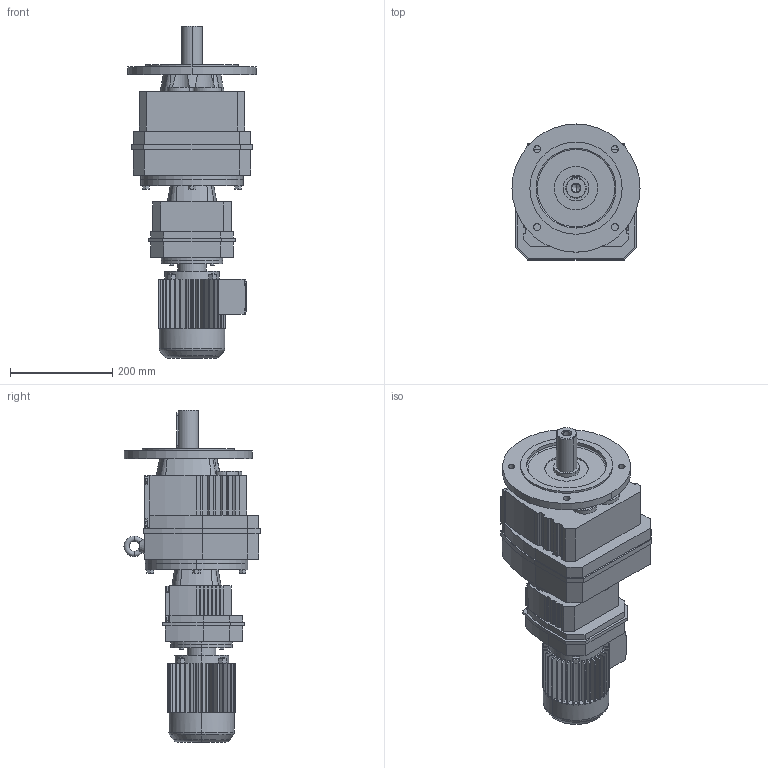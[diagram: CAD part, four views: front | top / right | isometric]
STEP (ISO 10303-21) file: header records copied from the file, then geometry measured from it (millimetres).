
FILE_DESCRIPTION(('Open CASCADE Model'),'2;1');
FILE_NAME('Open CASCADE Shape Model','2021-07-24T14:58:00',('Author'),( 'Open CASCADE'),'Open CASCADE STEP processor 6.3','Open CASCADE 6.3' ,'Unknown');
FILE_SCHEMA(('AUTOMOTIVE_DESIGN_CC2 { 1 2 10303 214 -1 1 5 4 }'));
Length unit declared in the file: millimetre
Products named in the file (4): 1_RF77R37DR63-250; RF37‵167_RF77R37_250.step; 萇儂_120-DR63-191-246-132-105.step; R_77_37.step
Assembly tree (3 placements, depth 2):
  1_RF77R37DR63-250
    RF37‵167_RF77R37_250.step
    萇儂_120-DR63-191-246-132-105.step
    R_77_37.step
Bounding box: 250 x 265.5 x 648 mm (x, y, z)
Volume: 13898061.8 mm3; surface area: 757126.3 mm2
Topology: 3 solids, 3 shells, 964 faces, 2559 edges, 1666 vertices
Faces by surface type: plane 702, cylinder 222, cone 28, torus 12
Entity records: 66744 total; most frequent: CARTESIAN_POINT 17362, DIRECTION 8697, ORIENTED_EDGE 5114, LINE 5114, VECTOR 5114, PCURVE 5114, DEFINITIONAL_REPRESENTATION 5114, EDGE_CURVE 2557
